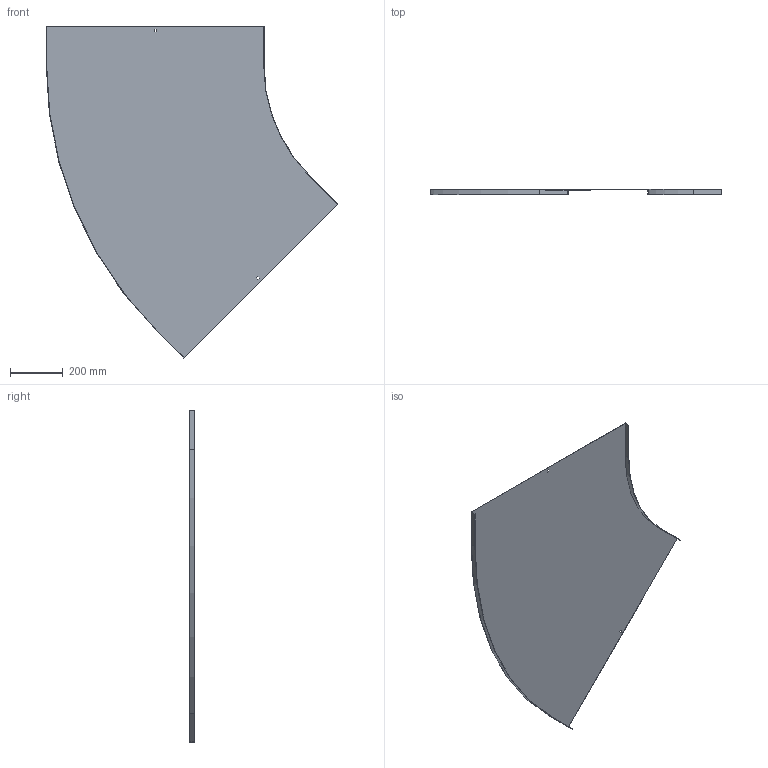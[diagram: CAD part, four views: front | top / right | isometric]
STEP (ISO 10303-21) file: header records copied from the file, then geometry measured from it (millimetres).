
FILE_DESCRIPTION (( 'STEP AP214' ), '1' );
FILE_NAME ('11N6P800.step', '2025-02-21T13:35:48', ( '' ), ( '' ), 'SwSTEP 2.0', 'SolidWorks 2023', '' );
FILE_SCHEMA (( 'AUTOMOTIVE_DESIGN' ));
Length unit declared in the file: millimetre
Products named in the file (1): 11N6P800
Bounding box: 1101.43 x 20 x 1254.15 mm (x, y, z)
Volume: 1399988.1 mm3; surface area: 1872580 mm2
Topology: 1 solids, 1 shells, 26 faces, 72 edges, 48 vertices
Faces by surface type: plane 22, cylinder 4
Entity records: 855 total; most frequent: CARTESIAN_POINT 147, ORIENTED_EDGE 144, DIRECTION 134, EDGE_CURVE 72, VECTOR 64, LINE 64, VERTEX_POINT 48, AXIS2_PLACEMENT_3D 35
